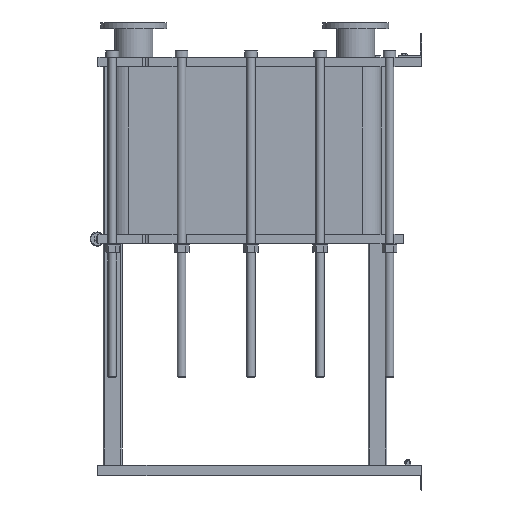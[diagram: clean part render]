
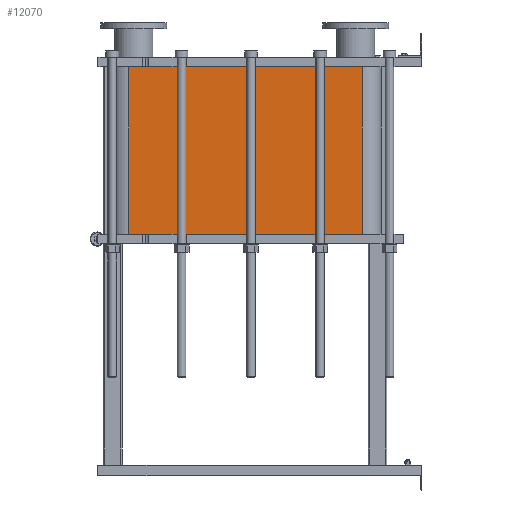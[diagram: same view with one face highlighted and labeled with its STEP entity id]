
A CAD part, left-side view. The second image highlights one B-rep face of the part: STEP entity #12070.
In plain terms, the highlighted planar face has unit normal (-1, 0, 0).
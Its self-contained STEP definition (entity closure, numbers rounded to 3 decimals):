
#1064=LINE('',#21140,#2164);
#1065=LINE('',#21144,#2165);
#1066=LINE('',#21146,#2166);
#1067=LINE('',#21147,#2167);
#2164=VECTOR('',#15790,10.);
#2165=VECTOR('',#15795,10.);
#2166=VECTOR('',#15796,10.);
#2167=VECTOR('',#15797,10.);
#3304=FACE_OUTER_BOUND('',#4091,.T.);
#4091=EDGE_LOOP('',(#9793,#9794,#9795,#9796));
#5677=VERTEX_POINT('',#21137);
#5678=VERTEX_POINT('',#21139);
#5679=VERTEX_POINT('',#21143);
#5680=VERTEX_POINT('',#21145);
#7118=EDGE_CURVE('',#5678,#5677,#1064,.T.);
#7120=EDGE_CURVE('',#5677,#5679,#1065,.T.);
#7121=EDGE_CURVE('',#5680,#5679,#1066,.T.);
#7122=EDGE_CURVE('',#5680,#5678,#1067,.T.);
#9793=ORIENTED_EDGE('',*,*,#7120,.T.);
#9794=ORIENTED_EDGE('',*,*,#7121,.F.);
#9795=ORIENTED_EDGE('',*,*,#7122,.T.);
#9796=ORIENTED_EDGE('',*,*,#7118,.T.);
#11441=PLANE('',#13191);
#12070=ADVANCED_FACE('',(#3304),#11441,.T.);
#13191=AXIS2_PLACEMENT_3D('',#21142,#15793,#15794);
#15790=DIRECTION('',(0.,0.,-1.));
#15793=DIRECTION('center_axis',(-1.,0.,0.));
#15794=DIRECTION('ref_axis',(0.,1.,0.));
#15795=DIRECTION('',(0.,-1.,0.));
#15796=DIRECTION('',(0.,0.,-1.));
#15797=DIRECTION('',(0.,1.,0.));
#21137=CARTESIAN_POINT('',(-248.152,1243.818,-710.7));
#21139=CARTESIAN_POINT('',(-248.152,1243.818,0.));
#21140=CARTESIAN_POINT('',(-248.152,1243.818,0.));
#21142=CARTESIAN_POINT('Origin',(-248.152,251.818,0.));
#21143=CARTESIAN_POINT('',(-248.152,251.818,-710.7));
#21144=CARTESIAN_POINT('',(-248.152,499.818,-710.7));
#21145=CARTESIAN_POINT('',(-248.152,251.818,0.));
#21146=CARTESIAN_POINT('',(-248.152,251.818,0.));
#21147=CARTESIAN_POINT('',(-248.152,251.818,0.));
